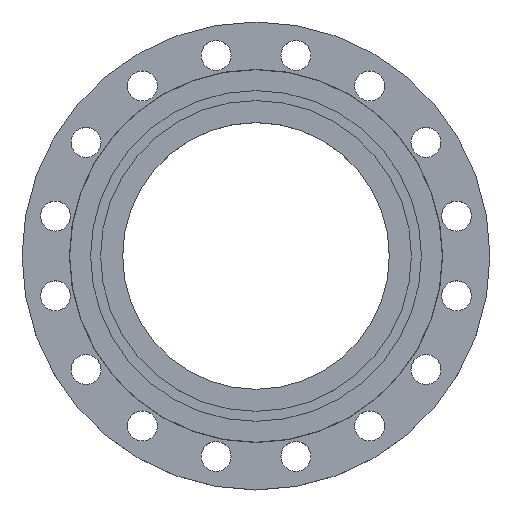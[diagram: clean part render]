
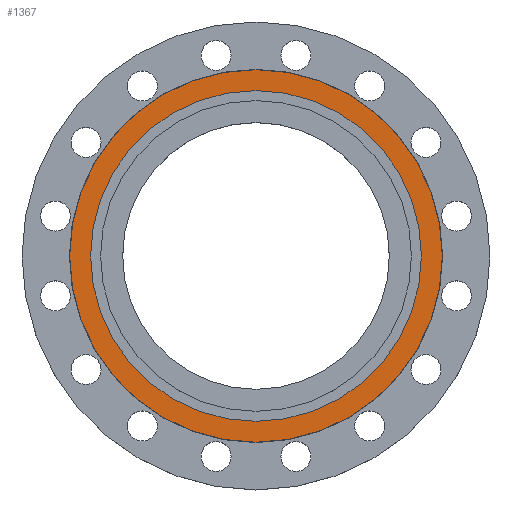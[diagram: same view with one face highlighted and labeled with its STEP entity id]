
A CAD part, top view. The second image highlights one B-rep face of the part: STEP entity #1367.
In plain terms, the highlighted planar face has unit normal (0, 0, 1).
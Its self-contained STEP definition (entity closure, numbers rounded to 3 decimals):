
#91 = EDGE_CURVE ( 'NONE', #942, #844, #1673, .T. ) ;
#136 = DIRECTION ( 'NONE',  ( -1., 0., 0. ) ) ;
#138 = DIRECTION ( 'NONE',  ( 0., 0., -1. ) ) ;
#139 = CARTESIAN_POINT ( 'NONE',  ( 0., 0., 0. ) ) ;
#264 = AXIS2_PLACEMENT_3D ( 'NONE', #576, #572, #570 ) ;
#269 = DIRECTION ( 'NONE',  ( -1., 0., 0. ) ) ;
#271 = DIRECTION ( 'NONE',  ( 0., 0., -1. ) ) ;
#274 = CARTESIAN_POINT ( 'NONE',  ( 0., 0., 0. ) ) ;
#289 = CIRCLE ( 'NONE', #1330, 205. ) ;
#490 = CIRCLE ( 'NONE', #1449, 182. ) ;
#544 = ORIENTED_EDGE ( 'NONE', *, *, #91, .T. ) ;
#570 = DIRECTION ( 'NONE',  ( 1., 0., 0. ) ) ;
#572 = DIRECTION ( 'NONE',  ( 0., 0., 1. ) ) ;
#576 = CARTESIAN_POINT ( 'NONE',  ( 0., 0., 0. ) ) ;
#579 = PLANE ( 'NONE',  #264 ) ;
#580 = FACE_BOUND ( 'NONE', #1092, .T. ) ;
#581 = FACE_OUTER_BOUND ( 'NONE', #1192, .T. ) ;
#675 = ORIENTED_EDGE ( 'NONE', *, *, #1514, .F. ) ;
#730 = EDGE_CURVE ( 'NONE', #844, #942, #490, .T. ) ;
#817 = AXIS2_PLACEMENT_3D ( 'NONE', #1211, #1210, #1207 ) ;
#823 = VERTEX_POINT ( 'NONE', #1219 ) ;
#829 = EDGE_CURVE ( 'NONE', #823, #884, #1534, .T. ) ;
#844 = VERTEX_POINT ( 'NONE', #1153 ) ;
#884 = VERTEX_POINT ( 'NONE', #1051 ) ;
#931 = CARTESIAN_POINT ( 'NONE',  ( 182., 0., 0. ) ) ;
#942 = VERTEX_POINT ( 'NONE', #931 ) ;
#995 = AXIS2_PLACEMENT_3D ( 'NONE', #139, #138, #136 ) ;
#1051 = CARTESIAN_POINT ( 'NONE',  ( 205., 0., 0. ) ) ;
#1092 = EDGE_LOOP ( 'NONE', ( #1752, #544 ) ) ;
#1153 = CARTESIAN_POINT ( 'NONE',  ( -182., 0., 0. ) ) ;
#1192 = EDGE_LOOP ( 'NONE', ( #1702, #675 ) ) ;
#1207 = DIRECTION ( 'NONE',  ( -1., 0., 0. ) ) ;
#1210 = DIRECTION ( 'NONE',  ( 0., 0., -1. ) ) ;
#1211 = CARTESIAN_POINT ( 'NONE',  ( 0., 0., 0. ) ) ;
#1219 = CARTESIAN_POINT ( 'NONE',  ( -205., 0., 0. ) ) ;
#1330 = AXIS2_PLACEMENT_3D ( 'NONE', #274, #271, #269 ) ;
#1345 = DIRECTION ( 'NONE',  ( -1., 0., 0. ) ) ;
#1346 = DIRECTION ( 'NONE',  ( 0., 0., -1. ) ) ;
#1347 = CARTESIAN_POINT ( 'NONE',  ( 0., 0., 0. ) ) ;
#1367 = ADVANCED_FACE ( 'NONE', ( #581, #580 ), #579, .T. ) ;
#1449 = AXIS2_PLACEMENT_3D ( 'NONE', #1347, #1346, #1345 ) ;
#1514 = EDGE_CURVE ( 'NONE', #884, #823, #289, .T. ) ;
#1534 = CIRCLE ( 'NONE', #817, 205. ) ;
#1673 = CIRCLE ( 'NONE', #995, 182. ) ;
#1702 = ORIENTED_EDGE ( 'NONE', *, *, #829, .F. ) ;
#1752 = ORIENTED_EDGE ( 'NONE', *, *, #730, .T. ) ;
